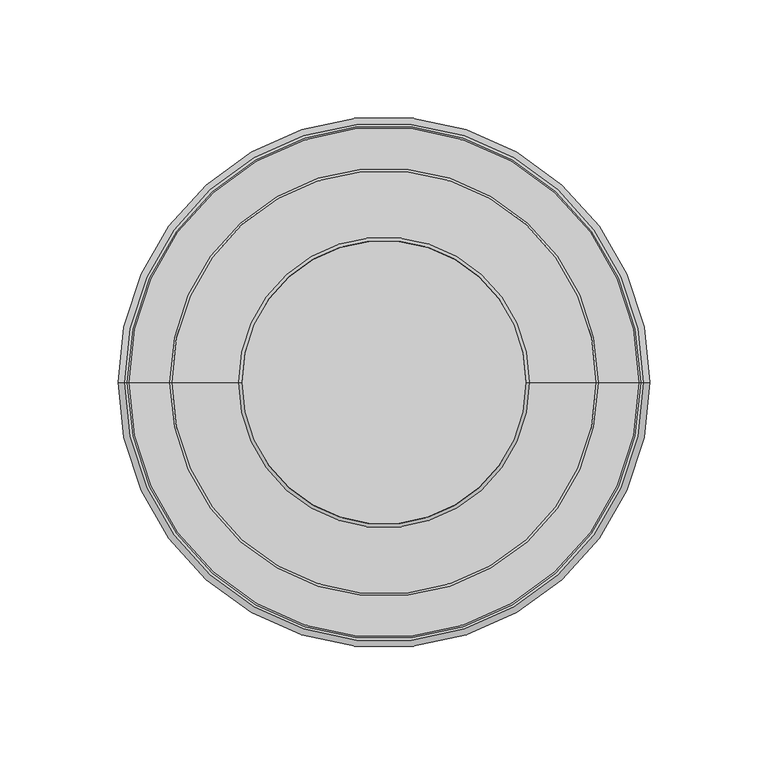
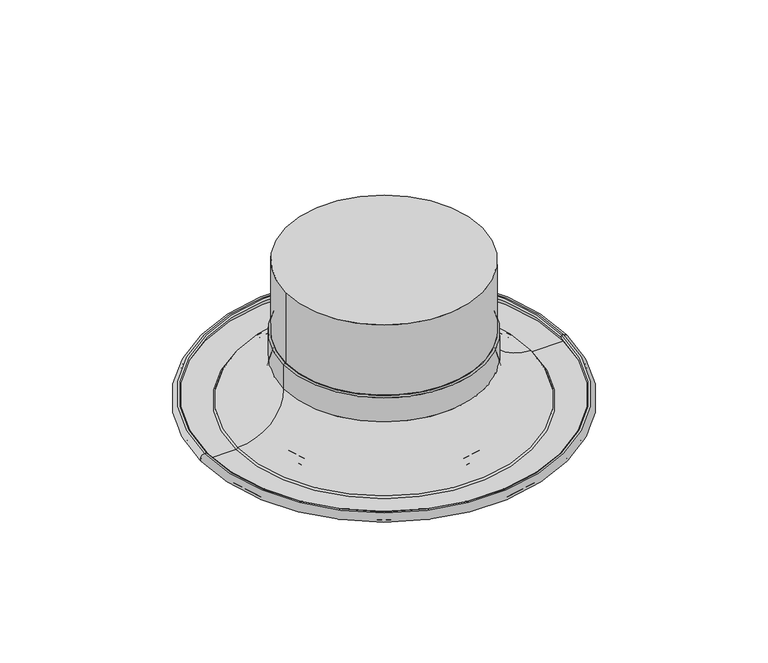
"""IFC4 building model written with IfcOpenShell, lengths in millimetres: air terminal geometry, AI_Bouche aération_Circulaire Extraction : ø125 mm."""

from ifc_helpers import new_model, si_unit, point, frame, origin, origin_with_axes, origin_2d, place, context, project, spatial, polyline, circle_curve, ellipse_curve, trimmed, segment, composite_curve, outline, extrude, source, transform, mapped, element, save
from ifc_brep_helpers import plane_surface, cylinder_surface, revolved_surface, advanced_brep


def air_terminal_c84e8fe3(model_context):
    return source(origin(), model_context, "Body", "SolidModel", [
        extrude(outline(composite_curve([segment(trimmed(circle_curve(origin_2d(), 60.0), [point((60.0, 0.0))], [point((-60.0, 0.0))], False, "CARTESIAN"), True, "CONTINUOUS"), segment(trimmed(circle_curve(origin_2d(), 60.0), [point((-60.0, 0.0))], [point((60.0, 0.0))], False, "CARTESIAN"), True, "CONTINUOUS")], self_intersect=False)), frame((0.0, 0.0, 41.2), z_axis=(0.0, 0.0, 1.0), x_axis=(1.0, 0.0, 0.0)), (0.0, 0.0, 1.0), 45.4),
        advanced_brep(
        [(-42.4021074, 0.0, 20.3), (42.4021074, 0.0, 20.3), (44.6975243, 0.0, 18.1451243), (-44.6975243, 0.0, 18.1451243), (-40.0, 0.0, 20.3), (40.0, 0.0, 20.3), (-40.0, 0.0, 19.0), (40.0, 0.0, 19.0), (-42.4021074, 0.0, 19.0), (42.4021074, 0.0, 19.0), (-43.4001147, 0.0, 18.0630975), (43.4001147, 0.0, 18.0630975), (-68.5, 0.0, -5.5), (68.5, 0.0, -5.5), (-73.27, 0.0, -5.5), (73.27, 0.0, -5.5), (-73.27, 0.0, -0.7), (73.27, 0.0, -0.7), (-72.27, 0.0, -0.7), (72.27, 0.0, -0.7), (-72.27, 0.0, -2.0), (72.27, 0.0, -2.0), (-73.27, 0.0, -2.0), (73.27, 0.0, -2.0), (-73.27, 0.0, -4.2), (73.27, 0.0, -4.2), (-68.5, 0.0, -4.2), (68.5, 0.0, -4.2)],
        [
            (0, 1, circle_curve(frame((0.0, 0.0, 20.3), z_axis=(0.0, 0.0, -1.0), x_axis=(1.0, 0.0, 0.0)), 42.4021074)),
            (1, 2, circle_curve(frame((42.4021074, 0.0, 18.0), z_axis=(0.0, 1.0, 0.0), x_axis=(1.0, 0.0, 0.0)), 2.3)),
            (2, 3, circle_curve(frame((0.0, 0.0, 18.1451243), z_axis=(0.0, 0.0, 1.0), x_axis=(1.0, 0.0, 0.0)), 44.6975243)),
            (3, 0, circle_curve(frame((-42.4021074, 0.0, 18.0), z_axis=(0.0, 1.0, 0.0), x_axis=(-1.0, 0.0, 0.0)), 2.3)),
            (1, 0, circle_curve(frame((0.0, 0.0, 20.3), z_axis=(0.0, 0.0, -1.0), x_axis=(1.0, 0.0, 0.0)), 42.4021074)),
            (3, 2, circle_curve(frame((0.0, 0.0, 18.1451243), z_axis=(0.0, 0.0, 1.0), x_axis=(1.0, 0.0, 0.0)), 44.6975243)),
            (4, 5, circle_curve(frame((0.0, 0.0, 20.3), z_axis=(0.0, 0.0, -1.0), x_axis=(1.0, 0.0, 0.0)), 40.0)),
            (5, 1),
            (0, 4),
            (5, 4, circle_curve(frame((0.0, 0.0, 20.3), z_axis=(0.0, 0.0, -1.0), x_axis=(1.0, 0.0, 0.0)), 40.0)),
            (6, 7, circle_curve(frame((0.0, 0.0, 19.0), z_axis=(0.0, 0.0, -1.0), x_axis=(1.0, 0.0, 0.0)), 40.0)),
            (7, 5, circle_curve(frame((40.0, 0.0, 19.65), z_axis=(0.0, 1.0, 0.0), x_axis=(1.0, 0.0, 0.0)), 0.65)),
            (4, 6, circle_curve(frame((-40.0, 0.0, 19.65), z_axis=(0.0, 1.0, 0.0), x_axis=(-1.0, 0.0, 0.0)), 0.65)),
            (7, 6, circle_curve(frame((0.0, 0.0, 19.0), z_axis=(0.0, 0.0, -1.0), x_axis=(1.0, 0.0, 0.0)), 40.0)),
            (8, 9, circle_curve(frame((0.0, 0.0, 19.0), z_axis=(0.0, 0.0, -1.0), x_axis=(1.0, 0.0, 0.0)), 42.4021074)),
            (9, 7),
            (6, 8),
            (9, 8, circle_curve(frame((0.0, 0.0, 19.0), z_axis=(0.0, 0.0, -1.0), x_axis=(1.0, 0.0, 0.0)), 42.4021074)),
            (10, 11, circle_curve(frame((0.0, 0.0, 18.0630975), z_axis=(0.0, 0.0, -1.0), x_axis=(1.0, 0.0, 0.0)), 43.4001147)),
            (11, 9, circle_curve(frame((42.4021074, 0.0, 18.0), z_axis=(0.0, -1.0, 0.0), x_axis=(1.0, 0.0, 0.0)), 1.0)),
            (8, 10, circle_curve(frame((-42.4021074, 0.0, 18.0), z_axis=(0.0, -1.0, 0.0), x_axis=(-1.0, 0.0, 0.0)), 1.0)),
            (11, 10, circle_curve(frame((0.0, 0.0, 18.0630975), z_axis=(0.0, 0.0, -1.0), x_axis=(1.0, 0.0, 0.0)), 43.4001147)),
            (12, 13, circle_curve(frame((0.0, 0.0, -5.5), z_axis=(0.0, 0.0, -1.0), x_axis=(1.0, 0.0, 0.0)), 68.5)),
            (13, 11, circle_curve(frame((68.5, 0.0, 19.65), z_axis=(0.0, 1.0, 0.0), x_axis=(1.0, 0.0, 0.0)), 25.15)),
            (10, 12, circle_curve(frame((-68.5, 0.0, 19.65), z_axis=(0.0, 1.0, 0.0), x_axis=(-1.0, 0.0, 0.0)), 25.15)),
            (13, 12, circle_curve(frame((0.0, 0.0, -5.5), z_axis=(0.0, 0.0, -1.0), x_axis=(1.0, 0.0, 0.0)), 68.5)),
            (14, 15, circle_curve(frame((0.0, 0.0, -5.5), z_axis=(0.0, 0.0, -1.0), x_axis=(1.0, 0.0, 0.0)), 73.27)),
            (15, 13),
            (12, 14),
            (15, 14, circle_curve(frame((0.0, 0.0, -5.5), z_axis=(0.0, 0.0, -1.0), x_axis=(1.0, 0.0, 0.0)), 73.27)),
            (16, 17, circle_curve(frame((0.0, 0.0, -0.7), z_axis=(0.0, 0.0, -1.0), x_axis=(1.0, 0.0, 0.0)), 73.27)),
            (17, 15, circle_curve(frame((73.27, 0.0, -3.1), z_axis=(0.0, 1.0, 0.0), x_axis=(1.0, 0.0, 0.0)), 2.4)),
            (14, 16, circle_curve(frame((-73.27, 0.0, -3.1), z_axis=(0.0, 1.0, 0.0), x_axis=(-1.0, 0.0, 0.0)), 2.4)),
            (17, 16, circle_curve(frame((0.0, 0.0, -0.7), z_axis=(0.0, 0.0, -1.0), x_axis=(1.0, 0.0, 0.0)), 73.27)),
            (18, 19, circle_curve(frame((0.0, 0.0, -0.7), z_axis=(0.0, 0.0, -1.0), x_axis=(1.0, 0.0, 0.0)), 72.27)),
            (19, 17),
            (16, 18),
            (19, 18, circle_curve(frame((0.0, 0.0, -0.7), z_axis=(0.0, 0.0, -1.0), x_axis=(1.0, 0.0, 0.0)), 72.27)),
            (20, 21, circle_curve(frame((0.0, 0.0, -2.0), z_axis=(0.0, 0.0, -1.0), x_axis=(1.0, 0.0, 0.0)), 72.27)),
            (21, 19, circle_curve(frame((72.27, 0.0, -1.35), z_axis=(0.0, 1.0, 0.0), x_axis=(1.0, 0.0, 0.0)), 0.65)),
            (18, 20, circle_curve(frame((-72.27, 0.0, -1.35), z_axis=(0.0, 1.0, 0.0), x_axis=(-1.0, 0.0, 0.0)), 0.65)),
            (21, 20, circle_curve(frame((0.0, 0.0, -2.0), z_axis=(0.0, 0.0, -1.0), x_axis=(1.0, 0.0, 0.0)), 72.27)),
            (22, 23, circle_curve(frame((0.0, 0.0, -2.0), z_axis=(0.0, 0.0, -1.0), x_axis=(1.0, 0.0, 0.0)), 73.27)),
            (23, 21),
            (20, 22),
            (23, 22, circle_curve(frame((0.0, 0.0, -2.0), z_axis=(0.0, 0.0, -1.0), x_axis=(1.0, 0.0, 0.0)), 73.27)),
            (24, 25, circle_curve(frame((0.0, 0.0, -4.2), z_axis=(0.0, 0.0, -1.0), x_axis=(1.0, 0.0, 0.0)), 73.27)),
            (25, 23, circle_curve(frame((73.27, 0.0, -3.1), z_axis=(0.0, -1.0, 0.0), x_axis=(1.0, 0.0, 0.0)), 1.1)),
            (22, 24, circle_curve(frame((-73.27, 0.0, -3.1), z_axis=(0.0, -1.0, 0.0), x_axis=(-1.0, 0.0, 0.0)), 1.1)),
            (25, 24, circle_curve(frame((0.0, 0.0, -4.2), z_axis=(0.0, 0.0, -1.0), x_axis=(1.0, 0.0, 0.0)), 73.27)),
            (26, 27, circle_curve(frame((0.0, 0.0, -4.2), z_axis=(0.0, 0.0, -1.0), x_axis=(1.0, 0.0, 0.0)), 68.5)),
            (27, 25),
            (24, 26),
            (27, 26, circle_curve(frame((0.0, 0.0, -4.2), z_axis=(0.0, 0.0, -1.0), x_axis=(1.0, 0.0, 0.0)), 68.5)),
            (2, 27, circle_curve(frame((68.5, 0.0, 19.65), z_axis=(0.0, -1.0, 0.0), x_axis=(1.0, 0.0, 0.0)), 23.85)),
            (26, 3, circle_curve(frame((-68.5, 0.0, 19.65), z_axis=(0.0, -1.0, 0.0), x_axis=(-1.0, 0.0, 0.0)), 23.85)),
        ],
        [
            revolved_surface(trimmed(ellipse_curve(frame((42.4021074, 0.0, 18.0), z_axis=(0.0, -1.0, 0.0), x_axis=(1.0, 0.0, 0.0)), 2.3, 2.3), [point((44.6975243, 0.0, 18.1451243))], [point((42.4021074, 0.0, 20.3))], True, "CARTESIAN"), (0.0, 0.0, 1789.7688894), (0.0, 0.0, 1.0)),
            plane_surface(frame((0.0, 0.0, 20.3), z_axis=(0.0, 0.0, 1.0), x_axis=(1.0, 0.0, 0.0))),
            revolved_surface(trimmed(ellipse_curve(frame((40.0, 0.0, 19.65), z_axis=(0.0, -1.0, 0.0), x_axis=(1.0, 0.0, 0.0)), 0.65, 0.65), [point((40.0, 0.0, 20.3))], [point((40.0, 0.0, 19.0))], True, "CARTESIAN"), (0.0, 0.0, 1789.7688894), (0.0, 0.0, 1.0)),
            plane_surface(frame((0.0, 0.0, 19.0), z_axis=(0.0, 0.0, -1.0), x_axis=(1.0, 0.0, 0.0))),
            revolved_surface(trimmed(ellipse_curve(frame((42.4021074, 0.0, 18.0), z_axis=(0.0, 1.0, 0.0), x_axis=(1.0, 0.0, 0.0)), 1.0, 1.0), [point((42.4021074, 0.0, 19.0))], [point((43.4001147, 0.0, 18.0630975))], True, "CARTESIAN"), (0.0, 0.0, 1789.7688894), (0.0, 0.0, 1.0)),
            revolved_surface(trimmed(ellipse_curve(frame((68.5, 0.0, 19.65), z_axis=(0.0, -1.0, 0.0), x_axis=(1.0, 0.0, 0.0)), 25.15, 25.15), [point((43.4001147, 0.0, 18.0630975))], [point((68.5, 0.0, -5.5))], True, "CARTESIAN"), (0.0, 0.0, 1789.7688894), (0.0, 0.0, 1.0)),
            plane_surface(frame((0.0, 0.0, -5.5), z_axis=(0.0, 0.0, -1.0), x_axis=(1.0, 0.0, 0.0))),
            revolved_surface(trimmed(ellipse_curve(frame((73.27, 0.0, -3.1), z_axis=(0.0, -1.0, 0.0), x_axis=(1.0, 0.0, 0.0)), 2.4, 2.4), [point((73.27, 0.0, -5.5))], [point((73.27, 0.0, -0.7))], True, "CARTESIAN"), (0.0, 0.0, 1789.7688894), (0.0, 0.0, 1.0)),
            plane_surface(frame((0.0, 0.0, -0.7), z_axis=(0.0, 0.0, 1.0), x_axis=(1.0, 0.0, 0.0))),
            revolved_surface(trimmed(ellipse_curve(frame((72.27, 0.0, -1.35), z_axis=(0.0, -1.0, 0.0), x_axis=(1.0, 0.0, 0.0)), 0.65, 0.65), [point((72.27, 0.0, -0.7))], [point((72.27, 0.0, -2.0))], True, "CARTESIAN"), (0.0, 0.0, 1789.7688894), (0.0, 0.0, 1.0)),
            plane_surface(frame((0.0, 0.0, -2.0), z_axis=(0.0, 0.0, -1.0), x_axis=(1.0, 0.0, 0.0))),
            revolved_surface(trimmed(ellipse_curve(frame((73.27, 0.0, -3.1), z_axis=(0.0, 1.0, 0.0), x_axis=(1.0, 0.0, 0.0)), 1.1, 1.1), [point((73.27, 0.0, -2.0))], [point((73.27, 0.0, -4.2))], True, "CARTESIAN"), (0.0, 0.0, 1789.7688894), (0.0, 0.0, 1.0)),
            plane_surface(frame((0.0, 0.0, -4.2), z_axis=(0.0, 0.0, 1.0), x_axis=(1.0, 0.0, 0.0))),
            revolved_surface(trimmed(ellipse_curve(frame((68.5, 0.0, 19.65), z_axis=(0.0, 1.0, 0.0), x_axis=(1.0, 0.0, 0.0)), 23.85, 23.85), [point((68.5, 0.0, -4.2))], [point((44.6975243, 0.0, 18.1451243))], True, "CARTESIAN"), (0.0, 0.0, 1789.7688894), (0.0, 0.0, 1.0)),
        ],
        [
            (0, [[1, 2, 3, 4]]),
            (0, [[5, -4, 6, -2]]),
            (1, [[7, 8, -1, 9]]),
            (1, [[10, -9, -5, -8]]),
            (2, [[11, 12, -7, 13]]),
            (2, [[14, -13, -10, -12]]),
            (3, [[15, 16, -11, 17]]),
            (3, [[18, -17, -14, -16]]),
            (4, [[19, 20, -15, 21]]),
            (4, [[22, -21, -18, -20]]),
            (5, [[23, 24, -19, 25]]),
            (5, [[26, -25, -22, -24]]),
            (6, [[27, 28, -23, 29]]),
            (6, [[30, -29, -26, -28]]),
            (7, [[31, 32, -27, 33]]),
            (7, [[34, -33, -30, -32]]),
            (8, [[35, 36, -31, 37]]),
            (8, [[38, -37, -34, -36]]),
            (9, [[39, 40, -35, 41]]),
            (9, [[42, -41, -38, -40]]),
            (10, [[43, 44, -39, 45]]),
            (10, [[46, -45, -42, -44]]),
            (11, [[47, 48, -43, 49]]),
            (11, [[50, -49, -46, -48]]),
            (12, [[51, 52, -47, 53]]),
            (12, [[54, -53, -50, -52]]),
            (13, [[-3, 55, -51, 56]]),
            (13, [[-6, -56, -54, -55]]),
        ],
    ),
        advanced_brep(
        [(-41.27, 0.0, -5.5), (41.27, 0.0, -5.5), (36.5, 0.0, -5.5), (-36.5, 0.0, -5.5), (-41.27, 0.0, -0.7), (41.27, 0.0, -0.7), (-40.27, 0.0, -0.7), (40.27, 0.0, -0.7), (-40.27, 0.0, -2.0), (40.27, 0.0, -2.0), (-41.27, 0.0, -2.0), (41.27, 0.0, -2.0), (-41.27, 0.0, -4.2), (41.27, 0.0, -4.2), (-36.5, 0.0, -4.2), (36.5, 0.0, -4.2), (-12.6975243, 0.0, 18.1451243), (12.6975243, 0.0, 18.1451243), (-10.4021074, 0.0, 20.3), (10.4021074, 0.0, 20.3), (0.0, 0.0, 20.3), (-5.8512508, 0.0, 14.3598455), (5.8512508, 0.0, 14.3598455), (0.0, 0.0, 14.3598455), (-6.85, 0.0, 15.3098455), (6.85, 0.0, 15.3098455), (-6.85, 0.0, 19.0), (6.85, 0.0, 19.0), (-10.4021074, 0.0, 19.0), (10.4021074, 0.0, 19.0), (-11.4001147, 0.0, 18.0630975), (11.4001147, 0.0, 18.0630975)],
        [
            (0, 1, circle_curve(frame((0.0, 0.0, -5.5), z_axis=(0.0, 0.0, -1.0), x_axis=(1.0, 0.0, 0.0)), 41.27)),
            (1, 2),
            (2, 3, circle_curve(frame((0.0, 0.0, -5.5), z_axis=(0.0, 0.0, 1.0), x_axis=(1.0, 0.0, 0.0)), 36.5)),
            (3, 0),
            (1, 0, circle_curve(frame((0.0, 0.0, -5.5), z_axis=(0.0, 0.0, -1.0), x_axis=(1.0, 0.0, 0.0)), 41.27)),
            (3, 2, circle_curve(frame((0.0, 0.0, -5.5), z_axis=(0.0, 0.0, 1.0), x_axis=(1.0, 0.0, 0.0)), 36.5)),
            (4, 5, circle_curve(frame((0.0, 0.0, -0.7), z_axis=(0.0, 0.0, -1.0), x_axis=(1.0, 0.0, 0.0)), 41.27)),
            (5, 1, circle_curve(frame((41.27, 0.0, -3.1), z_axis=(0.0, 1.0, 0.0), x_axis=(1.0, 0.0, 0.0)), 2.4)),
            (0, 4, circle_curve(frame((-41.27, 0.0, -3.1), z_axis=(0.0, 1.0, 0.0), x_axis=(-1.0, 0.0, 0.0)), 2.4)),
            (5, 4, circle_curve(frame((0.0, 0.0, -0.7), z_axis=(0.0, 0.0, -1.0), x_axis=(1.0, 0.0, 0.0)), 41.27)),
            (6, 7, circle_curve(frame((0.0, 0.0, -0.7), z_axis=(0.0, 0.0, -1.0), x_axis=(1.0, 0.0, 0.0)), 40.27)),
            (7, 5),
            (4, 6),
            (7, 6, circle_curve(frame((0.0, 0.0, -0.7), z_axis=(0.0, 0.0, -1.0), x_axis=(1.0, 0.0, 0.0)), 40.27)),
            (8, 9, circle_curve(frame((0.0, 0.0, -2.0), z_axis=(0.0, 0.0, -1.0), x_axis=(1.0, 0.0, 0.0)), 40.27)),
            (9, 7, circle_curve(frame((40.27, 0.0, -1.35), z_axis=(0.0, 1.0, 0.0), x_axis=(1.0, 0.0, 0.0)), 0.65)),
            (6, 8, circle_curve(frame((-40.27, 0.0, -1.35), z_axis=(0.0, 1.0, 0.0), x_axis=(-1.0, 0.0, 0.0)), 0.65)),
            (9, 8, circle_curve(frame((0.0, 0.0, -2.0), z_axis=(0.0, 0.0, -1.0), x_axis=(1.0, 0.0, 0.0)), 40.27)),
            (10, 11, circle_curve(frame((0.0, 0.0, -2.0), z_axis=(0.0, 0.0, -1.0), x_axis=(1.0, 0.0, 0.0)), 41.27)),
            (11, 9),
            (8, 10),
            (11, 10, circle_curve(frame((0.0, 0.0, -2.0), z_axis=(0.0, 0.0, -1.0), x_axis=(1.0, 0.0, 0.0)), 41.27)),
            (12, 13, circle_curve(frame((0.0, 0.0, -4.2), z_axis=(0.0, 0.0, -1.0), x_axis=(1.0, 0.0, 0.0)), 41.27)),
            (13, 11, circle_curve(frame((41.27, 0.0, -3.1), z_axis=(0.0, -1.0, 0.0), x_axis=(1.0, 0.0, 0.0)), 1.1)),
            (10, 12, circle_curve(frame((-41.27, 0.0, -3.1), z_axis=(0.0, -1.0, 0.0), x_axis=(-1.0, 0.0, 0.0)), 1.1)),
            (13, 12, circle_curve(frame((0.0, 0.0, -4.2), z_axis=(0.0, 0.0, -1.0), x_axis=(1.0, 0.0, 0.0)), 41.27)),
            (14, 15, circle_curve(frame((0.0, 0.0, -4.2), z_axis=(0.0, 0.0, -1.0), x_axis=(1.0, 0.0, 0.0)), 36.5)),
            (15, 13),
            (12, 14),
            (15, 14, circle_curve(frame((0.0, 0.0, -4.2), z_axis=(0.0, 0.0, -1.0), x_axis=(1.0, 0.0, 0.0)), 36.5)),
            (16, 17, circle_curve(frame((0.0, 0.0, 18.1451243), z_axis=(0.0, 0.0, -1.0), x_axis=(1.0, 0.0, 0.0)), 12.6975243)),
            (17, 15, circle_curve(frame((36.5, 0.0, 19.65), z_axis=(0.0, -1.0, 0.0), x_axis=(1.0, 0.0, 0.0)), 23.85)),
            (14, 16, circle_curve(frame((-36.5, 0.0, 19.65), z_axis=(0.0, -1.0, 0.0), x_axis=(-1.0, 0.0, 0.0)), 23.85)),
            (17, 16, circle_curve(frame((0.0, 0.0, 18.1451243), z_axis=(0.0, 0.0, -1.0), x_axis=(1.0, 0.0, 0.0)), 12.6975243)),
            (18, 19, circle_curve(frame((0.0, 0.0, 20.3), z_axis=(0.0, 0.0, -1.0), x_axis=(1.0, 0.0, 0.0)), 10.4021074)),
            (19, 17, circle_curve(frame((10.4021074, 0.0, 18.0), z_axis=(0.0, 1.0, 0.0), x_axis=(1.0, 0.0, 0.0)), 2.3)),
            (16, 18, circle_curve(frame((-10.4021074, 0.0, 18.0), z_axis=(0.0, 1.0, 0.0), x_axis=(-1.0, 0.0, 0.0)), 2.3)),
            (19, 18, circle_curve(frame((0.0, 0.0, 20.3), z_axis=(0.0, 0.0, -1.0), x_axis=(1.0, 0.0, 0.0)), 10.4021074)),
            (20, 19),
            (18, 20),
            (21, 22, circle_curve(frame((0.0, 0.0, 14.3598455), z_axis=(0.0, 0.0, -1.0), x_axis=(1.0, 0.0, 0.0)), 5.8512508)),
            (22, 23),
            (23, 21),
            (22, 21, circle_curve(frame((0.0, 0.0, 14.3598455), z_axis=(0.0, 0.0, -1.0), x_axis=(1.0, 0.0, 0.0)), 5.8512508)),
            (24, 25, circle_curve(frame((0.0, 0.0, 15.3098455), z_axis=(0.0, 0.0, -1.0), x_axis=(1.0, 0.0, 0.0)), 6.85)),
            (25, 22, circle_curve(frame((5.8512508, 0.0, 15.3598455), z_axis=(0.0, 1.0, 0.0), x_axis=(1.0, 0.0, 0.0)), 1.0)),
            (21, 24, circle_curve(frame((-5.8512508, 0.0, 15.3598455), z_axis=(0.0, 1.0, 0.0), x_axis=(-1.0, 0.0, 0.0)), 1.0)),
            (25, 24, circle_curve(frame((0.0, 0.0, 15.3098455), z_axis=(0.0, 0.0, -1.0), x_axis=(1.0, 0.0, 0.0)), 6.85)),
            (26, 27, circle_curve(frame((0.0, 0.0, 19.0), z_axis=(0.0, 0.0, -1.0), x_axis=(1.0, 0.0, 0.0)), 6.85)),
            (27, 25),
            (24, 26),
            (27, 26, circle_curve(frame((0.0, 0.0, 19.0), z_axis=(0.0, 0.0, -1.0), x_axis=(1.0, 0.0, 0.0)), 6.85)),
            (28, 29, circle_curve(frame((0.0, 0.0, 19.0), z_axis=(0.0, 0.0, -1.0), x_axis=(1.0, 0.0, 0.0)), 10.4021074)),
            (29, 27),
            (26, 28),
            (29, 28, circle_curve(frame((0.0, 0.0, 19.0), z_axis=(0.0, 0.0, -1.0), x_axis=(1.0, 0.0, 0.0)), 10.4021074)),
            (30, 31, circle_curve(frame((0.0, 0.0, 18.0630975), z_axis=(0.0, 0.0, -1.0), x_axis=(1.0, 0.0, 0.0)), 11.4001147)),
            (31, 29, circle_curve(frame((10.4021074, 0.0, 18.0), z_axis=(0.0, -1.0, 0.0), x_axis=(1.0, 0.0, 0.0)), 1.0)),
            (28, 30, circle_curve(frame((-10.4021074, 0.0, 18.0), z_axis=(0.0, -1.0, 0.0), x_axis=(-1.0, 0.0, 0.0)), 1.0)),
            (31, 30, circle_curve(frame((0.0, 0.0, 18.0630975), z_axis=(0.0, 0.0, -1.0), x_axis=(1.0, 0.0, 0.0)), 11.4001147)),
            (2, 31, circle_curve(frame((36.5, 0.0, 19.65), z_axis=(0.0, 1.0, 0.0), x_axis=(1.0, 0.0, 0.0)), 25.15)),
            (30, 3, circle_curve(frame((-36.5, 0.0, 19.65), z_axis=(0.0, 1.0, 0.0), x_axis=(-1.0, 0.0, 0.0)), 25.15)),
        ],
        [
            plane_surface(frame((0.0, 0.0, -5.5), z_axis=(0.0, 0.0, -1.0), x_axis=(1.0, 0.0, 0.0))),
            revolved_surface(trimmed(ellipse_curve(frame((41.27, 0.0, -3.1), z_axis=(0.0, -1.0, 0.0), x_axis=(1.0, 0.0, 0.0)), 2.4, 2.4), [point((41.27, 0.0, -5.5))], [point((41.27, 0.0, -0.7))], True, "CARTESIAN"), (0.0, 0.0, 1789.7688894), (0.0, 0.0, 1.0)),
            plane_surface(frame((0.0, 0.0, -0.7), z_axis=(0.0, 0.0, 1.0), x_axis=(1.0, 0.0, 0.0))),
            revolved_surface(trimmed(ellipse_curve(frame((40.27, 0.0, -1.35), z_axis=(0.0, -1.0, 0.0), x_axis=(1.0, 0.0, 0.0)), 0.65, 0.65), [point((40.27, 0.0, -0.7))], [point((40.27, 0.0, -2.0))], True, "CARTESIAN"), (0.0, 0.0, 1789.7688894), (0.0, 0.0, 1.0)),
            plane_surface(frame((0.0, 0.0, -2.0), z_axis=(0.0, 0.0, -1.0), x_axis=(1.0, 0.0, 0.0))),
            revolved_surface(trimmed(ellipse_curve(frame((41.27, 0.0, -3.1), z_axis=(0.0, 1.0, 0.0), x_axis=(1.0, 0.0, 0.0)), 1.1, 1.1), [point((41.27, 0.0, -2.0))], [point((41.27, 0.0, -4.2))], True, "CARTESIAN"), (0.0, 0.0, 1789.7688894), (0.0, 0.0, 1.0)),
            plane_surface(frame((0.0, 0.0, -4.2), z_axis=(0.0, 0.0, 1.0), x_axis=(1.0, 0.0, 0.0))),
            revolved_surface(trimmed(ellipse_curve(frame((36.5, 0.0, 19.65), z_axis=(0.0, 1.0, 0.0), x_axis=(1.0, 0.0, 0.0)), 23.85, 23.85), [point((36.5, 0.0, -4.2))], [point((12.6975243, 0.0, 18.1451243))], True, "CARTESIAN"), (0.0, 0.0, 1789.7688894), (0.0, 0.0, 1.0)),
            revolved_surface(trimmed(ellipse_curve(frame((10.4021074, 0.0, 18.0), z_axis=(0.0, -1.0, 0.0), x_axis=(1.0, 0.0, 0.0)), 2.3, 2.3), [point((12.6975243, 0.0, 18.1451243))], [point((10.4021074, 0.0, 20.3))], True, "CARTESIAN"), (0.0, 0.0, 1789.7688894), (0.0, 0.0, 1.0)),
            plane_surface(frame((0.0, 0.0, 20.3), z_axis=(0.0, 0.0, 1.0), x_axis=(1.0, 0.0, 0.0))),
            plane_surface(frame((0.0, 0.0, 14.3598455), z_axis=(0.0, 0.0, -1.0), x_axis=(1.0, 0.0, 0.0))),
            revolved_surface(trimmed(ellipse_curve(frame((5.8512508, 0.0, 15.3598455), z_axis=(0.0, -1.0, 0.0), x_axis=(1.0, 0.0, 0.0)), 1.0, 1.0), [point((5.8512508, 0.0, 14.3598455))], [point((6.85, 0.0, 15.3098455))], True, "CARTESIAN"), (0.0, 0.0, 1789.7688894), (0.0, 0.0, 1.0)),
            cylinder_surface(frame((0.0, 0.0, 1789.7688894), z_axis=(0.0, 0.0, 1.0), x_axis=(1.0, 0.0, 0.0)), 6.85),
            plane_surface(frame((0.0, 0.0, 19.0), z_axis=(0.0, 0.0, -1.0), x_axis=(1.0, 0.0, 0.0))),
            revolved_surface(trimmed(ellipse_curve(frame((10.4021074, 0.0, 18.0), z_axis=(0.0, 1.0, 0.0), x_axis=(1.0, 0.0, 0.0)), 1.0, 1.0), [point((10.4021074, 0.0, 19.0))], [point((11.4001147, 0.0, 18.0630975))], True, "CARTESIAN"), (0.0, 0.0, 1789.7688894), (0.0, 0.0, 1.0)),
            revolved_surface(trimmed(ellipse_curve(frame((36.5, 0.0, 19.65), z_axis=(0.0, -1.0, 0.0), x_axis=(1.0, 0.0, 0.0)), 25.15, 25.15), [point((11.4001147, 0.0, 18.0630975))], [point((36.5, 0.0, -5.5))], True, "CARTESIAN"), (0.0, 0.0, 1789.7688894), (0.0, 0.0, 1.0)),
        ],
        [
            (0, [[1, 2, 3, 4]]),
            (0, [[5, -4, 6, -2]]),
            (1, [[7, 8, -1, 9]]),
            (1, [[10, -9, -5, -8]]),
            (2, [[11, 12, -7, 13]]),
            (2, [[14, -13, -10, -12]]),
            (3, [[15, 16, -11, 17]]),
            (3, [[18, -17, -14, -16]]),
            (4, [[19, 20, -15, 21]]),
            (4, [[22, -21, -18, -20]]),
            (5, [[23, 24, -19, 25]]),
            (5, [[26, -25, -22, -24]]),
            (6, [[27, 28, -23, 29]]),
            (6, [[30, -29, -26, -28]]),
            (7, [[31, 32, -27, 33]]),
            (7, [[34, -33, -30, -32]]),
            (8, [[35, 36, -31, 37]]),
            (8, [[38, -37, -34, -36]]),
            (9, [[39, -35, 40]]),
            (9, [[-40, -38, -39]]),
            (10, [[41, 42, 43]]),
            (10, [[44, -43, -42]]),
            (11, [[45, 46, -41, 47]]),
            (11, [[48, -47, -44, -46]]),
            (12, [[49, 50, -45, 51]]),
            (12, [[52, -51, -48, -50]]),
            (13, [[53, 54, -49, 55]]),
            (13, [[56, -55, -52, -54]]),
            (14, [[57, 58, -53, 59]]),
            (14, [[60, -59, -56, -58]]),
            (15, [[-3, 61, -57, 62]]),
            (15, [[-6, -62, -60, -61]]),
        ],
    ),
        advanced_brep(
        [(-108.75, 0.0, 0.0), (108.75, 0.0, 0.0), (109.75, 0.0, 0.0), (-109.75, 0.0, 0.0), (-108.75, 0.0, -1.2999995), (108.75, 0.0, -1.2999995), (-109.75, 0.0, -1.2999995), (109.75, 0.0, -1.2999995), (-109.75, 0.0, -4.1991736), (109.75, 0.0, -4.1991736), (-90.8001846, 0.0, -4.1991736), (90.8001846, 0.0, -4.1991736), (-89.7992909, 0.0, -3.19828), (89.7992909, 0.0, -3.19828), (-61.5, 0.0, 24.8756135), (61.5, 0.0, 24.8756135), (-60.2, 0.0, 40.5), (60.2, 0.0, 40.5), (61.5, 0.0, 40.5), (-61.5, 0.0, 40.5), (-60.2, 0.0, 24.4500005), (60.2, 0.0, 24.4500005), (-87.5550919, 0.0, -4.456033), (87.5550919, 0.0, -4.456033), (-88.259052, 0.0, -4.8034841), (88.259052, 0.0, -4.8034841), (-89.7759333, 0.0, -5.5), (89.7759333, 0.0, -5.5), (-109.75, 0.0, -5.5), (109.75, 0.0, -5.5)],
        [
            (0, 1, circle_curve(frame((0.0, 0.0, 0.0), z_axis=(0.0, 0.0, -1.0), x_axis=(1.0, 0.0, 0.0)), 108.75)),
            (1, 2),
            (2, 3, circle_curve(origin_with_axes(), 109.75)),
            (3, 0),
            (1, 0, circle_curve(frame((0.0, 0.0, 0.0), z_axis=(0.0, 0.0, -1.0), x_axis=(1.0, 0.0, 0.0)), 108.75)),
            (3, 2, circle_curve(origin_with_axes(), 109.75)),
            (4, 5, circle_curve(frame((0.0, 0.0, -1.2999995), z_axis=(0.0, 0.0, -1.0), x_axis=(1.0, 0.0, 0.0)), 108.75)),
            (5, 1, circle_curve(frame((108.75, 0.0, -0.6499998), z_axis=(0.0, 1.0, 0.0), x_axis=(1.0, 0.0, 0.0)), 0.6499998)),
            (0, 4, circle_curve(frame((-108.75, 0.0, -0.6499998), z_axis=(0.0, 1.0, 0.0), x_axis=(-1.0, 0.0, 0.0)), 0.6499998)),
            (5, 4, circle_curve(frame((0.0, 0.0, -1.2999995), z_axis=(0.0, 0.0, -1.0), x_axis=(1.0, 0.0, 0.0)), 108.75)),
            (6, 7, circle_curve(frame((0.0, 0.0, -1.2999995), z_axis=(0.0, 0.0, -1.0), x_axis=(1.0, 0.0, 0.0)), 109.75)),
            (7, 5),
            (4, 6),
            (7, 6, circle_curve(frame((0.0, 0.0, -1.2999995), z_axis=(0.0, 0.0, -1.0), x_axis=(1.0, 0.0, 0.0)), 109.75)),
            (8, 9, circle_curve(frame((0.0, 0.0, -4.1991736), z_axis=(0.0, 0.0, -1.0), x_axis=(1.0, 0.0, 0.0)), 109.75)),
            (9, 7, circle_curve(frame((109.75, 0.0, -2.7495866), z_axis=(0.0, -1.0, 0.0), x_axis=(1.0, 0.0, 0.0)), 1.449587)),
            (6, 8, circle_curve(frame((-109.75, 0.0, -2.7495866), z_axis=(0.0, -1.0, 0.0), x_axis=(-1.0, 0.0, 0.0)), 1.449587)),
            (9, 8, circle_curve(frame((0.0, 0.0, -4.1991736), z_axis=(0.0, 0.0, -1.0), x_axis=(1.0, 0.0, 0.0)), 109.75)),
            (10, 11, circle_curve(frame((0.0, 0.0, -4.1991736), z_axis=(0.0, 0.0, -1.0), x_axis=(1.0, 0.0, 0.0)), 90.8001846)),
            (11, 9),
            (8, 10),
            (11, 10, circle_curve(frame((0.0, 0.0, -4.1991736), z_axis=(0.0, 0.0, -1.0), x_axis=(1.0, 0.0, 0.0)), 90.8001846)),
            (12, 13, circle_curve(frame((0.0, 0.0, -3.19828), z_axis=(0.0, 0.0, -1.0), x_axis=(1.0, 0.0, 0.0)), 89.7992909)),
            (13, 11, circle_curve(frame((90.8001846, 0.0, -3.19828), z_axis=(0.0, -1.0, 0.0), x_axis=(1.0, 0.0, 0.0)), 1.0008937)),
            (10, 12, circle_curve(frame((-90.8001846, 0.0, -3.19828), z_axis=(0.0, -1.0, 0.0), x_axis=(-1.0, 0.0, 0.0)), 1.0008937)),
            (13, 12, circle_curve(frame((0.0, 0.0, -3.19828), z_axis=(0.0, 0.0, -1.0), x_axis=(1.0, 0.0, 0.0)), 89.7992909)),
            (14, 15, circle_curve(frame((0.0, 0.0, 24.8756135), z_axis=(0.0, 0.0, -1.0), x_axis=(1.0, 0.0, 0.0)), 61.5)),
            (15, 13, circle_curve(frame((89.1496309, 0.0, 24.4470398), z_axis=(0.0, -1.0, 0.0), x_axis=(1.0, 0.0, 0.0)), 27.6529521)),
            (12, 14, circle_curve(frame((-89.1496309, 0.0, 24.4470398), z_axis=(0.0, -1.0, 0.0), x_axis=(-1.0, 0.0, 0.0)), 27.6529521)),
            (15, 14, circle_curve(frame((0.0, 0.0, 24.8756135), z_axis=(0.0, 0.0, -1.0), x_axis=(1.0, 0.0, 0.0)), 61.5)),
            (16, 17, circle_curve(frame((0.0, 0.0, 40.5), z_axis=(0.0, 0.0, -1.0), x_axis=(1.0, 0.0, 0.0)), 60.2)),
            (17, 18, circle_curve(frame((60.85, 0.0, 40.5), z_axis=(0.0, 1.0, 0.0), x_axis=(1.0, 0.0, 0.0)), 0.65)),
            (18, 19, circle_curve(frame((0.0, 0.0, 40.5), z_axis=(0.0, 0.0, 1.0), x_axis=(1.0, 0.0, 0.0)), 61.5)),
            (19, 16, circle_curve(frame((-60.85, 0.0, 40.5), z_axis=(0.0, 1.0, 0.0), x_axis=(-1.0, 0.0, 0.0)), 0.65)),
            (17, 16, circle_curve(frame((0.0, 0.0, 40.5), z_axis=(0.0, 0.0, -1.0), x_axis=(1.0, 0.0, 0.0)), 60.2)),
            (19, 18, circle_curve(frame((0.0, 0.0, 40.5), z_axis=(0.0, 0.0, 1.0), x_axis=(1.0, 0.0, 0.0)), 61.5)),
            (20, 21, circle_curve(frame((0.0, 0.0, 24.4500005), z_axis=(0.0, 0.0, -1.0), x_axis=(1.0, 0.0, 0.0)), 60.2)),
            (21, 17),
            (16, 20),
            (21, 20, circle_curve(frame((0.0, 0.0, 24.4500005), z_axis=(0.0, 0.0, -1.0), x_axis=(1.0, 0.0, 0.0)), 60.2)),
            (22, 23, circle_curve(frame((0.0, 0.0, -4.456033), z_axis=(0.0, 0.0, -1.0), x_axis=(1.0, 0.0, 0.0)), 87.5550919)),
            (23, 21, circle_curve(frame((89.15, 0.0, 24.4500005), z_axis=(0.0, 1.0, 0.0), x_axis=(1.0, 0.0, 0.0)), 28.95)),
            (20, 22, circle_curve(frame((-89.15, 0.0, 24.4500005), z_axis=(0.0, 1.0, 0.0), x_axis=(-1.0, 0.0, 0.0)), 28.95)),
            (23, 22, circle_curve(frame((0.0, 0.0, -4.456033), z_axis=(0.0, 0.0, -1.0), x_axis=(1.0, 0.0, 0.0)), 87.5550919)),
            (24, 25, circle_curve(frame((0.0, 0.0, -4.8034841), z_axis=(0.0, 0.0, -1.0), x_axis=(1.0, 0.0, 0.0)), 88.259052)),
            (25, 23, circle_curve(frame((87.5, 0.0, -5.4545147), z_axis=(0.0, -1.0, 0.0), x_axis=(1.0, 0.0, 0.0)), 1.0000005)),
            (22, 24, circle_curve(frame((-87.5, 0.0, -5.4545147), z_axis=(0.0, -1.0, 0.0), x_axis=(-1.0, 0.0, 0.0)), 1.0000005)),
            (25, 24, circle_curve(frame((0.0, 0.0, -4.8034841), z_axis=(0.0, 0.0, -1.0), x_axis=(1.0, 0.0, 0.0)), 88.259052)),
            (26, 27, circle_curve(frame((0.0, 0.0, -5.5), z_axis=(0.0, 0.0, -1.0), x_axis=(1.0, 0.0, 0.0)), 89.7759333)),
            (27, 25, circle_curve(frame((89.7759333, 0.0, -3.5000004), z_axis=(0.0, 1.0, 0.0), x_axis=(1.0, 0.0, 0.0)), 1.9999995)),
            (24, 26, circle_curve(frame((-89.7759333, 0.0, -3.5000004), z_axis=(0.0, 1.0, 0.0), x_axis=(-1.0, 0.0, 0.0)), 1.9999995)),
            (27, 26, circle_curve(frame((0.0, 0.0, -5.5), z_axis=(0.0, 0.0, -1.0), x_axis=(1.0, 0.0, 0.0)), 89.7759333)),
            (28, 29, circle_curve(frame((0.0, 0.0, -5.5), z_axis=(0.0, 0.0, -1.0), x_axis=(1.0, 0.0, 0.0)), 109.75)),
            (29, 27),
            (26, 28),
            (29, 28, circle_curve(frame((0.0, 0.0, -5.5), z_axis=(0.0, 0.0, -1.0), x_axis=(1.0, 0.0, 0.0)), 109.75)),
            (2, 29, circle_curve(frame((109.75, 0.0, -2.75), z_axis=(0.0, 1.0, 0.0), x_axis=(1.0, 0.0, 0.0)), 2.75)),
            (28, 3, circle_curve(frame((-109.75, 0.0, -2.75), z_axis=(0.0, 1.0, 0.0), x_axis=(-1.0, 0.0, 0.0)), 2.75)),
            (18, 15),
            (14, 19),
        ],
        [
            plane_surface(origin_with_axes()),
            revolved_surface(trimmed(ellipse_curve(frame((108.75, 0.0, -0.6499998), z_axis=(0.0, -1.0, 0.0), x_axis=(1.0, 0.0, 0.0)), 0.6499998, 0.6499998), [point((108.75, 0.0, 0.0))], [point((108.75, 0.0, -1.2999995))], True, "CARTESIAN"), (0.0, 0.0, 1789.7688894), (0.0, 0.0, 1.0)),
            plane_surface(frame((0.0, 0.0, -1.2999995), z_axis=(0.0, 0.0, -1.0), x_axis=(1.0, 0.0, 0.0))),
            revolved_surface(trimmed(ellipse_curve(frame((109.75, 0.0, -2.7495866), z_axis=(0.0, 1.0, 0.0), x_axis=(1.0, 0.0, 0.0)), 1.449587, 1.449587), [point((109.75, 0.0, -1.2999995))], [point((109.75, 0.0, -4.1991736))], True, "CARTESIAN"), (0.0, 0.0, 1789.7688894), (0.0, 0.0, 1.0)),
            plane_surface(frame((0.0, 0.0, -4.1991736), z_axis=(0.0, 0.0, 1.0), x_axis=(1.0, 0.0, 0.0))),
            revolved_surface(trimmed(ellipse_curve(frame((90.8001846, 0.0, -3.19828), z_axis=(0.0, 1.0, 0.0), x_axis=(1.0, 0.0, 0.0)), 1.0008937, 1.0008937), [point((90.8001846, 0.0, -4.1991736))], [point((89.7992909, 0.0, -3.19828))], True, "CARTESIAN"), (0.0, 0.0, 1789.7688894), (0.0, 0.0, 1.0)),
            revolved_surface(trimmed(ellipse_curve(frame((89.1496309, 0.0, 24.4470398), z_axis=(0.0, 1.0, 0.0), x_axis=(1.0, 0.0, 0.0)), 27.6529521, 27.6529521), [point((89.7992909, 0.0, -3.19828))], [point((61.5, 0.0, 24.8756135))], True, "CARTESIAN"), (0.0, 0.0, 1789.7688894), (0.0, 0.0, 1.0)),
            revolved_surface(trimmed(ellipse_curve(frame((60.85, 0.0, 40.5), z_axis=(0.0, -1.0, 0.0), x_axis=(1.0, 0.0, 0.0)), 0.65, 0.65), [point((61.5, 0.0, 40.5))], [point((60.2, 0.0, 40.5))], True, "CARTESIAN"), (0.0, 0.0, 1789.7688894), (0.0, 0.0, 1.0)),
            revolved_surface(polyline([(60.2, 0.0, 40.5), (60.2, 0.0, 24.450000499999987)]), (0.0, 0.0, 1789.7688894), (0.0, 0.0, 1.0)),
            revolved_surface(trimmed(ellipse_curve(frame((89.15, 0.0, 24.4500005), z_axis=(0.0, -1.0, 0.0), x_axis=(1.0, 0.0, 0.0)), 28.95, 28.95), [point((60.2, 0.0, 24.4500005))], [point((87.5550919, 0.0, -4.456033))], True, "CARTESIAN"), (0.0, 0.0, 1789.7688894), (0.0, 0.0, 1.0)),
            revolved_surface(trimmed(ellipse_curve(frame((87.5, 0.0, -5.4545147), z_axis=(0.0, 1.0, 0.0), x_axis=(1.0, 0.0, 0.0)), 1.0000005, 1.0000005), [point((87.5550919, 0.0, -4.456033))], [point((88.259052, 0.0, -4.8034841))], True, "CARTESIAN"), (0.0, 0.0, 1789.7688894), (0.0, 0.0, 1.0)),
            revolved_surface(trimmed(ellipse_curve(frame((89.7759333, 0.0, -3.5000004), z_axis=(0.0, -1.0, 0.0), x_axis=(1.0, 0.0, 0.0)), 1.9999995, 1.9999995), [point((88.259052, 0.0, -4.8034841))], [point((89.7759333, 0.0, -5.5))], True, "CARTESIAN"), (0.0, 0.0, 1789.7688894), (0.0, 0.0, 1.0)),
            plane_surface(frame((0.0, 0.0, -5.5), z_axis=(0.0, 0.0, -1.0), x_axis=(1.0, 0.0, 0.0))),
            revolved_surface(trimmed(ellipse_curve(frame((109.75, 0.0, -2.75), z_axis=(0.0, -1.0, 0.0), x_axis=(1.0, 0.0, 0.0)), 2.75, 2.75), [point((109.75, 0.0, -5.5))], [point((109.75, 0.0, 0.0))], True, "CARTESIAN"), (0.0, 0.0, 1789.7688894), (0.0, 0.0, 1.0)),
            cylinder_surface(frame((0.0, 0.0, 1789.7688894), z_axis=(0.0, 0.0, 1.0), x_axis=(1.0, 0.0, 0.0)), 61.5),
        ],
        [
            (0, [[1, 2, 3, 4]]),
            (0, [[5, -4, 6, -2]]),
            (1, [[7, 8, -1, 9]]),
            (1, [[10, -9, -5, -8]]),
            (2, [[11, 12, -7, 13]]),
            (2, [[14, -13, -10, -12]]),
            (3, [[15, 16, -11, 17]]),
            (3, [[18, -17, -14, -16]]),
            (4, [[19, 20, -15, 21]]),
            (4, [[22, -21, -18, -20]]),
            (5, [[23, 24, -19, 25]]),
            (5, [[26, -25, -22, -24]]),
            (6, [[27, 28, -23, 29]]),
            (6, [[30, -29, -26, -28]]),
            (7, [[31, 32, 33, 34]]),
            (7, [[35, -34, 36, -32]]),
            (8, [[37, 38, -31, 39]]),
            (8, [[40, -39, -35, -38]]),
            (9, [[41, 42, -37, 43]]),
            (9, [[44, -43, -40, -42]]),
            (10, [[45, 46, -41, 47]]),
            (10, [[48, -47, -44, -46]]),
            (11, [[49, 50, -45, 51]]),
            (11, [[52, -51, -48, -50]]),
            (12, [[53, 54, -49, 55]]),
            (12, [[56, -55, -52, -54]]),
            (13, [[-3, 57, -53, 58]]),
            (13, [[-6, -58, -56, -57]]),
            (14, [[-33, 59, -27, 60]]),
            (14, [[-36, -60, -30, -59]]),
        ],
    ),
    ])


if __name__ == "__main__":
    model = new_model("IFC4")
    model_context = context("Model", 3, world=origin())
    ifc_project = project(units=[si_unit("LENGTHUNIT", "METRE", prefix="MILLI")], contexts=[model_context])
    site = spatial("IfcSite", under=ifc_project)
    building = spatial("IfcBuilding", under=site)
    placement = place(None, origin())
    air_terminal_shape = air_terminal_c84e8fe3(model_context)
    element("IfcAirTerminal", 1, ObjectType="AI_Bouche aération_Circulaire Extraction : ø125 mm", at=placement, inside=building, context=model_context, shape_type="MappedRepresentation", body=[
        mapped(air_terminal_shape, transform((0.0, 0.0, 0.0), x_axis=(1.0, 0.0, 0.0), y_axis=(0.0, 1.0, 0.0), z_axis=(0.0, 0.0, 1.0))),
    ])
    save(model, "model.ifc")
